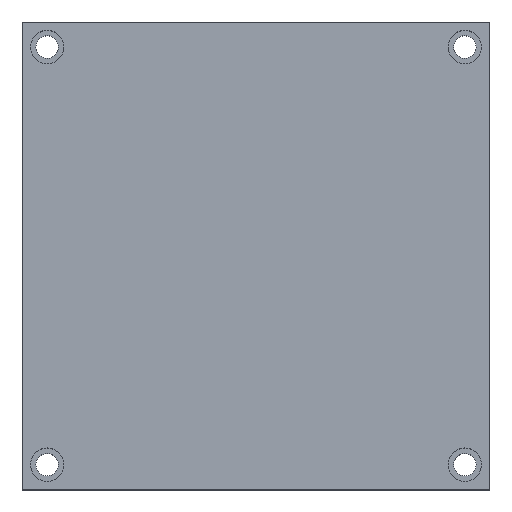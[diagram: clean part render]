
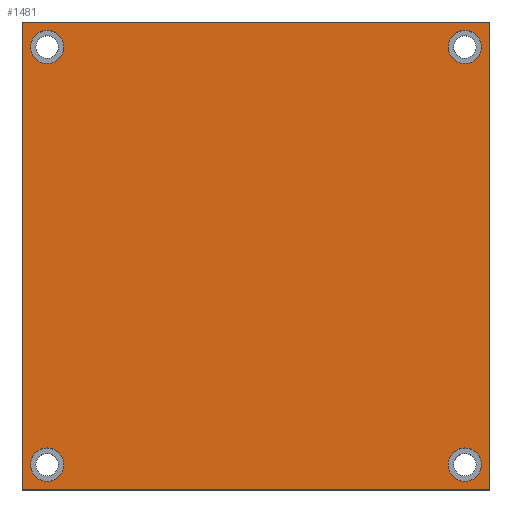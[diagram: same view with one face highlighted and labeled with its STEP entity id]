
A CAD part, top view. The second image highlights one B-rep face of the part: STEP entity #1481.
In plain terms, the highlighted planar face has unit normal (0, 0, 1).
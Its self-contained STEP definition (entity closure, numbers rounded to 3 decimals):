
#14 = DIRECTION ( 'NONE',  ( 1., 0., 0. ) ) ;
#54 = EDGE_CURVE ( 'NONE', #305, #2360, #2018, .T. ) ;
#68 = EDGE_LOOP ( 'NONE', ( #2423, #1747 ) ) ;
#115 = EDGE_LOOP ( 'NONE', ( #621, #1287, #2892, #2295 ) ) ;
#117 = FACE_BOUND ( 'NONE', #554, .T. ) ;
#155 = EDGE_LOOP ( 'NONE', ( #2515, #2690 ) ) ;
#194 = DIRECTION ( 'NONE',  ( 1., 0., 0. ) ) ;
#247 = EDGE_LOOP ( 'NONE', ( #1314, #747 ) ) ;
#281 = DIRECTION ( 'NONE',  ( 0., 0., 1. ) ) ;
#298 = CARTESIAN_POINT ( 'NONE',  ( 140., 140., 48. ) ) ;
#305 = VERTEX_POINT ( 'NONE', #1033 ) ;
#308 = CARTESIAN_POINT ( 'NONE',  ( 125., 125., 48. ) ) ;
#310 = AXIS2_PLACEMENT_3D ( 'NONE', #3075, #1641, #194 ) ;
#341 = FACE_OUTER_BOUND ( 'NONE', #115, .T. ) ;
#344 = DIRECTION ( 'NONE',  ( 0., 0., 1. ) ) ;
#406 = CARTESIAN_POINT ( 'NONE',  ( -140., 140., 48. ) ) ;
#408 = DIRECTION ( 'NONE',  ( 0., -1., 0. ) ) ;
#417 = EDGE_CURVE ( 'NONE', #2312, #426, #1991, .T. ) ;
#426 = VERTEX_POINT ( 'NONE', #298 ) ;
#448 = VECTOR ( 'NONE', #2701, 1000. ) ;
#470 = AXIS2_PLACEMENT_3D ( 'NONE', #2821, #344, #1120 ) ;
#486 = AXIS2_PLACEMENT_3D ( 'NONE', #308, #2063, #829 ) ;
#538 = AXIS2_PLACEMENT_3D ( 'NONE', #1956, #281, #2010 ) ;
#554 = EDGE_LOOP ( 'NONE', ( #1915, #2719 ) ) ;
#584 = CARTESIAN_POINT ( 'NONE',  ( 135., -125., 48. ) ) ;
#621 = ORIENTED_EDGE ( 'NONE', *, *, #417, .T. ) ;
#651 = CARTESIAN_POINT ( 'NONE',  ( 135., 125., 48. ) ) ;
#662 = VECTOR ( 'NONE', #2213, 1000. ) ;
#693 = CIRCLE ( 'NONE', #1361, 10. ) ;
#714 = CIRCLE ( 'NONE', #2909, 10. ) ;
#745 = AXIS2_PLACEMENT_3D ( 'NONE', #1790, #2584, #2820 ) ;
#747 = ORIENTED_EDGE ( 'NONE', *, *, #3079, .F. ) ;
#771 = CARTESIAN_POINT ( 'NONE',  ( 140., 140., 48. ) ) ;
#829 = DIRECTION ( 'NONE',  ( 1., 0., 0. ) ) ;
#834 = EDGE_CURVE ( 'NONE', #3046, #1737, #693, .T. ) ;
#858 = DIRECTION ( 'NONE',  ( -1., 0., 0. ) ) ;
#935 = CARTESIAN_POINT ( 'NONE',  ( 115., -125., 48. ) ) ;
#945 = EDGE_CURVE ( 'NONE', #2461, #1608, #2329, .T. ) ;
#964 = CARTESIAN_POINT ( 'NONE',  ( 115., 125., 48. ) ) ;
#969 = CIRCLE ( 'NONE', #310, 10. ) ;
#985 = DIRECTION ( 'NONE',  ( 0., 0., 1. ) ) ;
#1033 = CARTESIAN_POINT ( 'NONE',  ( -135., 125., 48. ) ) ;
#1046 = FACE_BOUND ( 'NONE', #155, .T. ) ;
#1086 = DIRECTION ( 'NONE',  ( 1., 0., 0. ) ) ;
#1120 = DIRECTION ( 'NONE',  ( 1., 0., 0. ) ) ;
#1133 = VECTOR ( 'NONE', #858, 1000. ) ;
#1183 = CARTESIAN_POINT ( 'NONE',  ( 140., -140., 48. ) ) ;
#1195 = CIRCLE ( 'NONE', #486, 10. ) ;
#1271 = CARTESIAN_POINT ( 'NONE',  ( -125., -125., 48. ) ) ;
#1287 = ORIENTED_EDGE ( 'NONE', *, *, #3072, .T. ) ;
#1288 = VERTEX_POINT ( 'NONE', #964 ) ;
#1314 = ORIENTED_EDGE ( 'NONE', *, *, #1791, .F. ) ;
#1339 = CARTESIAN_POINT ( 'NONE',  ( 125., -125., 48. ) ) ;
#1361 = AXIS2_PLACEMENT_3D ( 'NONE', #3000, #2768, #2969 ) ;
#1440 = CARTESIAN_POINT ( 'NONE',  ( -140., -140., 48. ) ) ;
#1481 = ADVANCED_FACE ( 'NONE', ( #1046, #3035, #1823, #117, #341 ), #2021, .T. ) ;
#1608 = VERTEX_POINT ( 'NONE', #1440 ) ;
#1619 = VECTOR ( 'NONE', #408, 1000. ) ;
#1641 = DIRECTION ( 'NONE',  ( 0., 0., 1. ) ) ;
#1690 = LINE ( 'NONE', #2676, #662 ) ;
#1724 = VERTEX_POINT ( 'NONE', #584 ) ;
#1737 = VERTEX_POINT ( 'NONE', #2783 ) ;
#1747 = ORIENTED_EDGE ( 'NONE', *, *, #54, .F. ) ;
#1771 = CIRCLE ( 'NONE', #3148, 10. ) ;
#1790 = CARTESIAN_POINT ( 'NONE',  ( 0., 0., 48. ) ) ;
#1791 = EDGE_CURVE ( 'NONE', #2331, #1288, #1195, .T. ) ;
#1823 = FACE_BOUND ( 'NONE', #247, .T. ) ;
#1915 = ORIENTED_EDGE ( 'NONE', *, *, #3122, .F. ) ;
#1956 = CARTESIAN_POINT ( 'NONE',  ( -125., 125., 48. ) ) ;
#1991 = LINE ( 'NONE', #771, #448 ) ;
#2010 = DIRECTION ( 'NONE',  ( 1., 0., 0. ) ) ;
#2018 = CIRCLE ( 'NONE', #538, 10. ) ;
#2021 = PLANE ( 'NONE',  #745 ) ;
#2063 = DIRECTION ( 'NONE',  ( 0., 0., 1. ) ) ;
#2079 = EDGE_CURVE ( 'NONE', #1737, #3046, #2548, .T. ) ;
#2196 = EDGE_CURVE ( 'NONE', #2338, #1724, #1771, .T. ) ;
#2213 = DIRECTION ( 'NONE',  ( 1., 0., 0. ) ) ;
#2295 = ORIENTED_EDGE ( 'NONE', *, *, #2797, .T. ) ;
#2307 = DIRECTION ( 'NONE',  ( 0., 0., 1. ) ) ;
#2312 = VERTEX_POINT ( 'NONE', #1183 ) ;
#2329 = LINE ( 'NONE', #2365, #1619 ) ;
#2331 = VERTEX_POINT ( 'NONE', #651 ) ;
#2338 = VERTEX_POINT ( 'NONE', #935 ) ;
#2346 = DIRECTION ( 'NONE',  ( 1., 0., 0. ) ) ;
#2360 = VERTEX_POINT ( 'NONE', #2388 ) ;
#2365 = CARTESIAN_POINT ( 'NONE',  ( -140., 140., 48. ) ) ;
#2375 = DIRECTION ( 'NONE',  ( 0., 0., 1. ) ) ;
#2388 = CARTESIAN_POINT ( 'NONE',  ( -115., 125., 48. ) ) ;
#2423 = ORIENTED_EDGE ( 'NONE', *, *, #2705, .F. ) ;
#2461 = VERTEX_POINT ( 'NONE', #2508 ) ;
#2508 = CARTESIAN_POINT ( 'NONE',  ( -140., 140., 48. ) ) ;
#2515 = ORIENTED_EDGE ( 'NONE', *, *, #2079, .F. ) ;
#2543 = CARTESIAN_POINT ( 'NONE',  ( -135., -125., 48. ) ) ;
#2548 = CIRCLE ( 'NONE', #2704, 10. ) ;
#2584 = DIRECTION ( 'NONE',  ( 0., 0., 1. ) ) ;
#2592 = LINE ( 'NONE', #406, #1133 ) ;
#2676 = CARTESIAN_POINT ( 'NONE',  ( -140., -140., 48. ) ) ;
#2690 = ORIENTED_EDGE ( 'NONE', *, *, #834, .F. ) ;
#2701 = DIRECTION ( 'NONE',  ( 0., 1., 0. ) ) ;
#2704 = AXIS2_PLACEMENT_3D ( 'NONE', #1271, #985, #14 ) ;
#2705 = EDGE_CURVE ( 'NONE', #2360, #305, #3007, .T. ) ;
#2719 = ORIENTED_EDGE ( 'NONE', *, *, #2196, .F. ) ;
#2768 = DIRECTION ( 'NONE',  ( 0., 0., 1. ) ) ;
#2783 = CARTESIAN_POINT ( 'NONE',  ( -115., -125., 48. ) ) ;
#2797 = EDGE_CURVE ( 'NONE', #1608, #2312, #1690, .T. ) ;
#2820 = DIRECTION ( 'NONE',  ( 1., 0., 0. ) ) ;
#2821 = CARTESIAN_POINT ( 'NONE',  ( -125., 125., 48. ) ) ;
#2841 = CARTESIAN_POINT ( 'NONE',  ( 125., -125., 48. ) ) ;
#2892 = ORIENTED_EDGE ( 'NONE', *, *, #945, .T. ) ;
#2909 = AXIS2_PLACEMENT_3D ( 'NONE', #1339, #2375, #2346 ) ;
#2969 = DIRECTION ( 'NONE',  ( 1., 0., 0. ) ) ;
#3000 = CARTESIAN_POINT ( 'NONE',  ( -125., -125., 48. ) ) ;
#3007 = CIRCLE ( 'NONE', #470, 10. ) ;
#3035 = FACE_BOUND ( 'NONE', #68, .T. ) ;
#3046 = VERTEX_POINT ( 'NONE', #2543 ) ;
#3072 = EDGE_CURVE ( 'NONE', #426, #2461, #2592, .T. ) ;
#3075 = CARTESIAN_POINT ( 'NONE',  ( 125., 125., 48. ) ) ;
#3079 = EDGE_CURVE ( 'NONE', #1288, #2331, #969, .T. ) ;
#3122 = EDGE_CURVE ( 'NONE', #1724, #2338, #714, .T. ) ;
#3148 = AXIS2_PLACEMENT_3D ( 'NONE', #2841, #2307, #1086 ) ;
